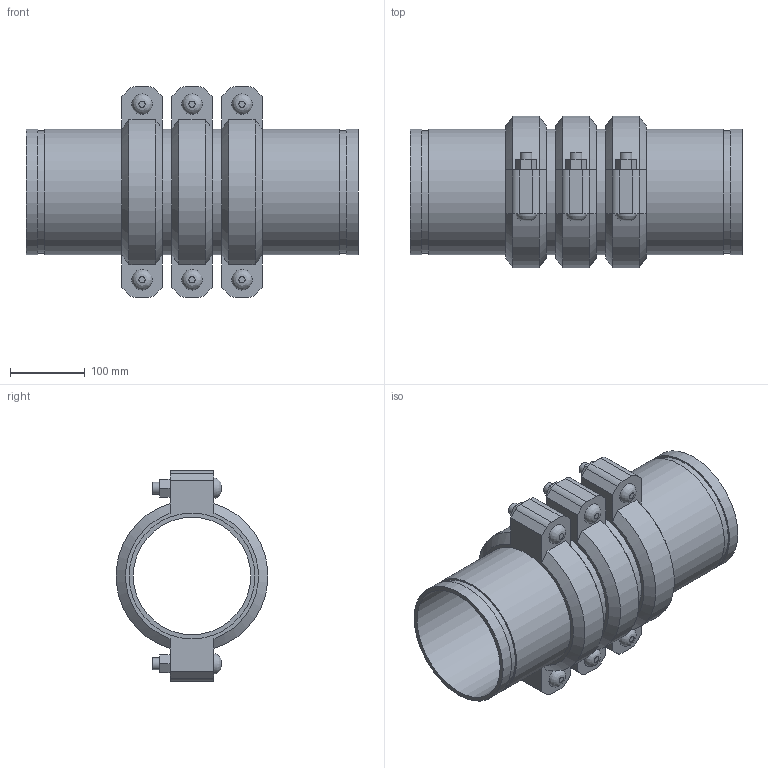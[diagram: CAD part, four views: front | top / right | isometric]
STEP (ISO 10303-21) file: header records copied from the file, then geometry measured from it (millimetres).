
FILE_DESCRIPTION(/* description */ ('VIC SS EXPANSION JOINT 3 COUPLINGS EXPANDED STYLE 155P (OGS) (POTABLE WATER) ','CAx-IF Rec.Pracs.---Representation and Presentation of Product Manufacturing Information (PMI)---4.0---2014-10-13'),/* implementation_level */ '2;1');
FILE_NAME(/* name */ 'C:\Users\kkamble\AppData\Roaming\Autodesk\ApplicationPlugins\Victaulic.Temp\A522\Victaulic_SS_Expansion Joint_Expanded_3 Couplings_Style 155P (OGS)-Potable Water_3 Coup_Expd_6 (150).stp',/* time_stamp */ '2021-07-16T16:50:16+05:00',/* author */ ('kkamble'),/* organization */ ('Victaulic'),/* preprocessor_version */ 'ST-DEVELOPER v17.2',/* originating_system */ 'Autodesk Inventor 2019',/* authorisation */ '');
FILE_SCHEMA (('AP242_MANAGED_MODEL_BASED_3D_ENGINEERING_MIM_LF { 1 0 10303 442 1 1 4 }'));
Length unit declared in the file: inch
Products named in the file (4): 155P-06.0; Nipple-06.0; Nipple-06.0_1; 075-06.0
Assembly tree (7 placements, depth 2):
  155P-06.0
    Nipple-06.0  x2
    Nipple-06.0_1  x2
    075-06.0  x3
Bounding box: 443.99 x 202.46 x 281.18 mm (x, y, z)
Volume: 3413586.2 mm3; surface area: 823112.6 mm2
Topology: 7 solids, 13 shells, 219 faces, 519 edges, 366 vertices
Faces by surface type: plane 132, cylinder 69, cone 12, bspline 6
Full cylindrical faces by diameter (mm): 15.875 x12, 17.424 x6, 157.15 x4, 161.925 x3, 163.957 x8, 168.275 x18
Entity records: 2760 total; most frequent: CARTESIAN_POINT 491, DIRECTION 457, ORIENTED_EDGE 386, EDGE_CURVE 193, AXIS2_PLACEMENT_3D 182, VERTEX_POINT 138, EDGE_LOOP 107, LINE 93
